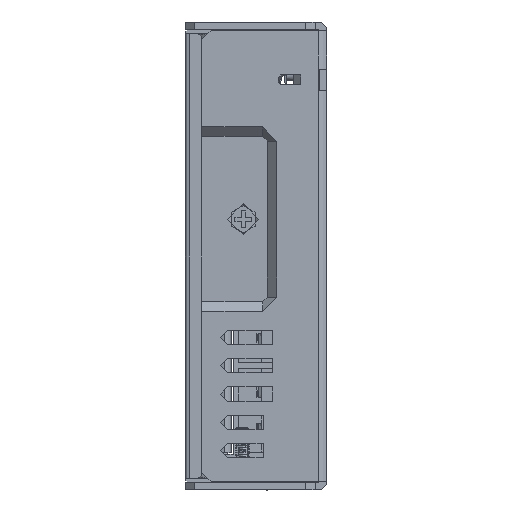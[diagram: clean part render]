
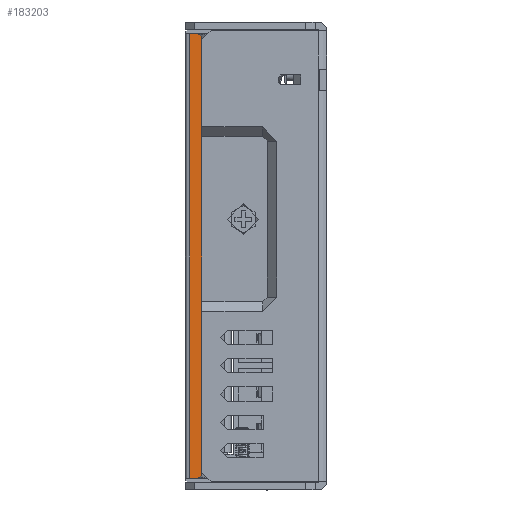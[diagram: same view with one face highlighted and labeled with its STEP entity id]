
A CAD part, left-side view. The second image highlights one B-rep face of the part: STEP entity #183203.
In plain terms, the highlighted planar face has unit normal (-1, 0, 0).
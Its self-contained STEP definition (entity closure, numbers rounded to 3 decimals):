
#5730 = AXIS2_PLACEMENT_3D ( 'NONE', #107545, #5937, #236514 ) ;
#5937 = DIRECTION ( 'NONE',  ( -1., 0., 0. ) ) ;
#9096 = DIRECTION ( 'NONE',  ( 0., 1., 0. ) ) ;
#9784 = LINE ( 'NONE', #212951, #174972 ) ;
#14185 = CARTESIAN_POINT ( 'NONE',  ( -89.5, 27.5, 46. ) ) ;
#16509 = LINE ( 'NONE', #38476, #228769 ) ;
#25916 = EDGE_CURVE ( 'NONE', #253201, #255212, #9784, .T. ) ;
#33363 = ORIENTED_EDGE ( 'NONE', *, *, #166035, .T. ) ;
#38476 = CARTESIAN_POINT ( 'NONE',  ( -89.5, 29., 0. ) ) ;
#38846 = DIRECTION ( 'NONE',  ( 0., 0., 1. ) ) ;
#41974 = CARTESIAN_POINT ( 'NONE',  ( -89.5, 26.5, -46. ) ) ;
#47596 = CARTESIAN_POINT ( 'NONE',  ( -89.5, 27.75, 47. ) ) ;
#49267 = CARTESIAN_POINT ( 'NONE',  ( -89.5, 27.5, 47. ) ) ;
#52804 = EDGE_LOOP ( 'NONE', ( #33363, #94518, #179009, #252041, #258999, #106266 ) ) ;
#54049 = CARTESIAN_POINT ( 'NONE',  ( -89.5, 27.5, -47. ) ) ;
#59043 = VERTEX_POINT ( 'NONE', #219861 ) ;
#81888 = EDGE_CURVE ( 'NONE', #256115, #112389, #198442, .T. ) ;
#93328 = DIRECTION ( 'NONE',  ( -1., 0., 0. ) ) ;
#94518 = ORIENTED_EDGE ( 'NONE', *, *, #25916, .T. ) ;
#106266 = ORIENTED_EDGE ( 'NONE', *, *, #192458, .T. ) ;
#107545 = CARTESIAN_POINT ( 'NONE',  ( -89.5, 29.225, 48.88 ) ) ;
#108663 = DIRECTION ( 'NONE',  ( 0., 0., 1. ) ) ;
#112389 = VERTEX_POINT ( 'NONE', #181647 ) ;
#112616 = VECTOR ( 'NONE', #9096, 1000. ) ;
#117916 = CARTESIAN_POINT ( 'NONE',  ( -89.5, 27.5, -46. ) ) ;
#124955 = AXIS2_PLACEMENT_3D ( 'NONE', #117916, #93328, #244183 ) ;
#128798 = CARTESIAN_POINT ( 'NONE',  ( -89.5, 26.5, 46. ) ) ;
#130064 = AXIS2_PLACEMENT_3D ( 'NONE', #14185, #206266, #38846 ) ;
#132449 = EDGE_CURVE ( 'NONE', #255212, #256115, #213304, .T. ) ;
#134923 = FACE_OUTER_BOUND ( 'NONE', #52804, .T. ) ;
#141971 = EDGE_CURVE ( 'NONE', #112389, #59043, #16509, .T. ) ;
#151215 = CIRCLE ( 'NONE', #124955, 1. ) ;
#166035 = EDGE_CURVE ( 'NONE', #236176, #253201, #151215, .T. ) ;
#170681 = PLANE ( 'NONE',  #5730 ) ;
#174972 = VECTOR ( 'NONE', #108663, 1000. ) ;
#179009 = ORIENTED_EDGE ( 'NONE', *, *, #132449, .T. ) ;
#181647 = CARTESIAN_POINT ( 'NONE',  ( -89.5, 29., 47. ) ) ;
#183203 = ADVANCED_FACE ( 'NONE', ( #134923 ), #170681, .T. ) ;
#192458 = EDGE_CURVE ( 'NONE', #59043, #236176, #241689, .T. ) ;
#196439 = DIRECTION ( 'NONE',  ( 0., -1., 0. ) ) ;
#198442 = LINE ( 'NONE', #47596, #112616 ) ;
#206266 = DIRECTION ( 'NONE',  ( -1., 0., 0. ) ) ;
#212951 = CARTESIAN_POINT ( 'NONE',  ( -89.5, 26.5, 0. ) ) ;
#213304 = CIRCLE ( 'NONE', #130064, 1. ) ;
#218389 = CARTESIAN_POINT ( 'NONE',  ( -89.5, 27.75, -47. ) ) ;
#219861 = CARTESIAN_POINT ( 'NONE',  ( -89.5, 29., -47. ) ) ;
#226693 = VECTOR ( 'NONE', #196439, 1000. ) ;
#228769 = VECTOR ( 'NONE', #266337, 1000. ) ;
#236176 = VERTEX_POINT ( 'NONE', #54049 ) ;
#236514 = DIRECTION ( 'NONE',  ( 0., 0., -1. ) ) ;
#241689 = LINE ( 'NONE', #218389, #226693 ) ;
#244183 = DIRECTION ( 'NONE',  ( 0., 0., -1. ) ) ;
#252041 = ORIENTED_EDGE ( 'NONE', *, *, #81888, .T. ) ;
#253201 = VERTEX_POINT ( 'NONE', #41974 ) ;
#255212 = VERTEX_POINT ( 'NONE', #128798 ) ;
#256115 = VERTEX_POINT ( 'NONE', #49267 ) ;
#258999 = ORIENTED_EDGE ( 'NONE', *, *, #141971, .T. ) ;
#266337 = DIRECTION ( 'NONE',  ( 0., 0., -1. ) ) ;
